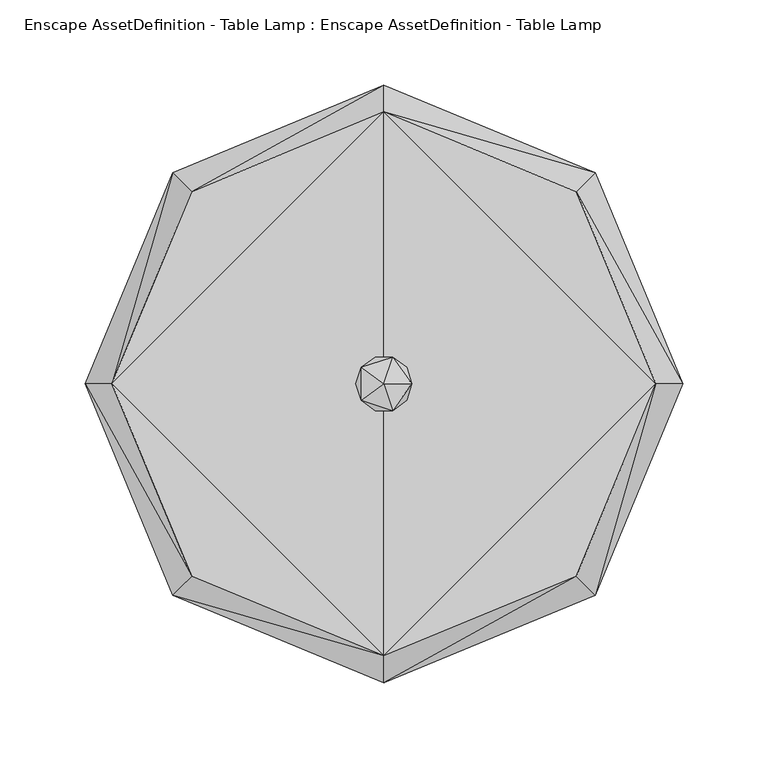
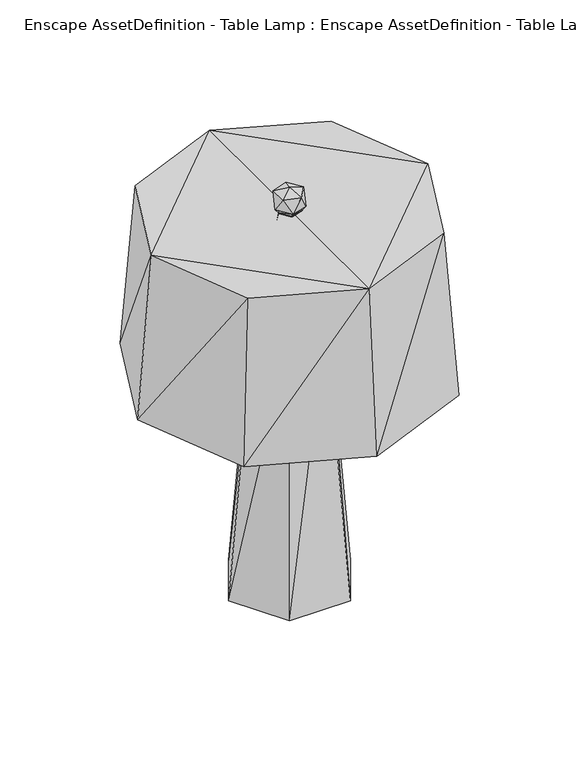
"""IFC4 building model written with IfcOpenShell, lengths in millimetres: geographic element geometry, Enscape AssetDefinition - Table Lamp : Enscape AssetDefinition - Table Lamp."""

import ifcopenshell
import ifcopenshell.guid

model = None  # the IFC model being written
_history = None  # IfcOwnerHistory: only IFC2X3 demands one
_inside = {}  # id of a spatial element -> (the spatial element, [elements in it])
_under = {}  # id of a project, library or spatial element -> (it, [spatial elements below it])
_declared = {}  # id of a project -> (the project, [libraries it declares])
_typed = {}  # id of a type object -> (the type object, [elements of that type])
_made_of = {}  # id of a material, layer set ... -> (it, [elements and type objects made of it])


def new_model(schema):
    """Start an empty IFC model of exactly this schema.

    Asked for "IFC4X3", IfcOpenShell would pick the latest addendum, in which some entities
    have other attributes; the version numbers below select the first issue.
    IFC2X3 requires an IfcOwnerHistory on every rooted entity: one is made here for all.
    """
    global model, _history
    if schema == "IFC4X3":
        model = ifcopenshell.file(schema_version=(4, 3, 0, 0))
    else:
        model = ifcopenshell.file(schema=schema)
    _inside.clear()
    _under.clear()
    _declared.clear()
    _typed.clear()
    _made_of.clear()
    _history = None
    if model.schema == "IFC2X3":
        org = make("IfcOrganization", Name="unknown")
        user = make(
            "IfcPersonAndOrganization",
            ThePerson=make("IfcPerson", FamilyName="unknown"),
            TheOrganization=org,
        )
        app = make(
            "IfcApplication",
            ApplicationDeveloper=org,
            Version="unknown",
            ApplicationFullName="unknown",
            ApplicationIdentifier="unknown",
        )
        _history = make(
            "IfcOwnerHistory",
            OwningUser=user,
            OwningApplication=app,
            ChangeAction="ADDED",
            CreationDate=0,
        )
    return model


def make(cls, **values):
    """One entity of the class cls with the attributes given. An attribute that is None is left unset."""
    return model.create_entity(
        cls, **{name: value for name, value in values.items() if value is not None}
    )


def rooted(cls, **values):
    """An entity with a GlobalId (a new one), such as an element, a storey or a relation."""
    return make(cls, GlobalId=ifcopenshell.guid.new(), OwnerHistory=_history, **values)


def si_unit(unit_type, name, prefix=None):
    """IfcSIUnit, for example si_unit("LENGTHUNIT", "METRE", prefix="MILLI")."""
    return make("IfcSIUnit", UnitType=unit_type, Prefix=prefix, Name=name)


def assignment(units):
    """IfcUnitAssignment: the units of a project."""
    return None if units is None else make("IfcUnitAssignment", Units=units)


def point(xyz):
    """IfcCartesianPoint."""
    return None if xyz is None else make("IfcCartesianPoint", Coordinates=xyz)


def direction(xyz):
    """IfcDirection."""
    return None if xyz is None else make("IfcDirection", DirectionRatios=xyz)


def frame(location, z_axis=None, x_axis=None):
    """IfcAxis2Placement3D, a coordinate frame: its origin and axes. An axis left out is left unset."""
    return make(
        "IfcAxis2Placement3D",
        Location=point(location),
        Axis=direction(z_axis),
        RefDirection=direction(x_axis),
    )


def origin():
    """The frame at (0, 0, 0) with its axes left unset."""
    return frame((0.0, 0.0, 0.0))


def place(relative_to, where):
    """IfcLocalPlacement: puts the frame where relative to a parent placement (None: the world)."""
    return make(
        "IfcLocalPlacement", PlacementRelTo=relative_to, RelativePlacement=where
    )


def context(
    kind, dimensions, precision=None, world=None, true_north=None, identifier=None
):
    """IfcGeometricRepresentationContext, for example the 3D "Model" context."""
    return make(
        "IfcGeometricRepresentationContext",
        ContextIdentifier=identifier,
        ContextType=kind,
        CoordinateSpaceDimension=dimensions,
        Precision=precision,
        WorldCoordinateSystem=world,
        TrueNorth=true_north,
    )


def project(units=None, contexts=None):
    """IfcProject with its units and contexts."""
    return rooted(
        "IfcProject",
        Name="project",
        RepresentationContexts=contexts,
        UnitsInContext=assignment(units),
    )


def spatial(cls, under=None, at=None, **own):
    """A site, building, storey or space (cls), placed at a placement, below another one or the project."""
    s = rooted(cls, ObjectPlacement=at, **own)
    if under is not None:
        _under.setdefault(under.id(), (under, []))[1].append(s)
    return s


def faces_of(points, faces, orient=None, outer=None):
    """IfcFace entities. A face is a list of loops; a loop is a list of indices into points, from 0.

    orient and outer hold one flag for each loop. By default every Orientation is true, the
    first loop of a face is its IfcFaceOuterBound and the others are IfcFaceBound.
    """
    made = []
    for i, loops in enumerate(faces):
        bounds = []
        for j, loop in enumerate(loops):
            is_outer = j == 0 if outer is None else outer[i][j]
            bounds.append(
                make(
                    "IfcFaceOuterBound" if is_outer else "IfcFaceBound",
                    Bound=make("IfcPolyLoop", Polygon=[points[k] for k in loop]),
                    Orientation=True if orient is None else orient[i][j],
                )
            )
        made.append(make("IfcFace", Bounds=bounds))
    return made


def faceted_brep(points, faces, orient=None, outer=None, voids=None):
    """IfcFacetedBrep: a solid bounded by flat faces; with voids (closed shells), ...WithVoids."""
    shared = [point(p) for p in points]
    hull = make("IfcClosedShell", CfsFaces=faces_of(shared, faces, orient, outer))
    if voids is None:
        return make("IfcFacetedBrep", Outer=hull)
    return make(
        "IfcFacetedBrepWithVoids",
        Outer=hull,
        Voids=[
            make(cls, CfsFaces=faces_of(shared, fs, o, b)) for cls, fs, o, b in voids
        ],
    )


def shape(context_of_items, identifier, shape_type, items):
    """IfcShapeRepresentation: the items that make up one representation, for example the "Body"."""
    return make(
        "IfcShapeRepresentation",
        ContextOfItems=context_of_items,
        RepresentationIdentifier=identifier,
        RepresentationType=shape_type,
        Items=items,
    )


def source(mapping_origin, context_of_items, identifier, shape_type, items):
    """IfcRepresentationMap: a shape defined once, which mapped items show again and again."""
    return make(
        "IfcRepresentationMap",
        MappingOrigin=mapping_origin,
        MappedRepresentation=shape(context_of_items, identifier, shape_type, items),
    )


def transform(
    local_origin,
    x_axis=None,
    y_axis=None,
    z_axis=None,
    scale=None,
    scale2=None,
    scale3=None,
    uniform=True,
):
    """IfcCartesianTransformationOperator3D, or its non-uniform kind. x_axis, y_axis, z_axis: its Axis1, 2, 3."""
    if uniform:
        return make(
            "IfcCartesianTransformationOperator3D",
            Axis1=direction(x_axis),
            Axis2=direction(y_axis),
            LocalOrigin=point(local_origin),
            Scale=scale,
            Axis3=direction(z_axis),
        )
    return make(
        "IfcCartesianTransformationOperator3DnonUniform",
        Axis1=direction(x_axis),
        Axis2=direction(y_axis),
        LocalOrigin=point(local_origin),
        Scale=scale,
        Axis3=direction(z_axis),
        Scale2=scale2,
        Scale3=scale3,
    )


def mapped(mapping_source, mapping_target):
    """IfcMappedItem: shows the shape of a source again, moved by a transform."""
    return make(
        "IfcMappedItem", MappingSource=mapping_source, MappingTarget=mapping_target
    )


def made_of(thing, what):
    """Note that an element or type object is made of a material, layer set ...; save() writes the relation."""
    if what is not None:
        _made_of.setdefault(what.id(), (what, []))[1].append(thing)
    return thing


def element(
    cls,
    number,
    at=None,
    inside=None,
    cuts=None,
    type_object=None,
    material=None,
    context=None,
    identifier="Body",
    shape_type=None,
    held_by="IfcProductDefinitionShape",
    body=None,
    shapes=None,
    **own,
):
    """One element of the class cls, such as IfcWall. Its Tag is "e" and its number.

    at: its placement. inside: the storey or other place that contains it. cuts: it is an
    opening in that element (IfcRelVoidsElement). A single representation is given by context,
    identifier, shape_type and body (its items); several are given by shapes. held_by: the class
    of the entity that holds the representations. save() writes the other relations.
    """
    e = rooted(cls, Tag="e%d" % number, ObjectPlacement=at, **own)
    if body is not None:
        shapes = [shape(context, identifier, shape_type, body)]
    if shapes is not None:
        e.Representation = make(held_by, Representations=shapes)
    if inside is not None:
        _inside.setdefault(inside.id(), (inside, []))[1].append(e)
    if cuts is not None:
        rooted(
            "IfcRelVoidsElement", RelatingBuildingElement=cuts, RelatedOpeningElement=e
        )
    if type_object is not None:
        _typed.setdefault(type_object.id(), (type_object, []))[1].append(e)
    return made_of(e, material)


def aggregate(whole, parts):
    """IfcRelAggregates: a whole, such as a stair, and the parts it consists of."""
    return rooted("IfcRelAggregates", RelatingObject=whole, RelatedObjects=parts)


def save(model, path):
    """Write the relations noted so far, then the file.

    IfcRelAggregates (storeys below a building ...), IfcRelContainedInSpatialStructure (elements
    in a storey), IfcRelDefinesByType, IfcRelAssociatesMaterial and IfcRelDeclares: one each for
    every whole, place, type object, material and project.
    """
    for whole, parts in _under.values():
        aggregate(whole, parts)
    for where, things in _inside.values():
        rooted(
            "IfcRelContainedInSpatialStructure",
            RelatedElements=things,
            RelatingStructure=where,
        )
    for kind, things in _typed.values():
        rooted("IfcRelDefinesByType", RelatedObjects=things, RelatingType=kind)
    for what, things in _made_of.values():
        rooted("IfcRelAssociatesMaterial", RelatedObjects=things, RelatingMaterial=what)
    for by, libraries in _declared.values():
        rooted("IfcRelDeclares", RelatingContext=by, RelatedDefinitions=libraries)
    model.write(path)


def enscape_assetdefinition_table_lamp_enscape_assetdefinition_93c3381e(model_context):
    return source(origin(), model_context, "Body", "Brep", [
        faceted_brep([(5.0825081, 15.6418644, 475.0798941), (0.0, 0.0, 480.0613225), (16.447112, 0.0, 475.0798941), (-13.305651, 9.6671209, 475.0798941), (-13.305651, -9.6671209, 475.0798941), (5.0825081, -15.6418644, 475.0798941), (13.305651, 9.6671209, 458.6327672), (13.305651, -9.6671209, 458.6327672), (-5.0825081, 15.6418644, 458.6327672), (-16.447112, 0.0, 458.6327672), (-5.0825081, -15.6418644, 458.6327672), (10.4309469, -7.5786118, 453.6099136), (-3.9839903, -12.2618098, 453.6099136), (10.4309469, 7.5786118, 453.6099136), (-3.9839903, 12.2618098, 453.6099136), (-12.8930835, 0.0, 453.6099136), (-5.0493702, -15.5407935, 439.4617379), (-16.3410716, 0.0, 439.4617379), (13.2203195, -9.6049877, 439.4617379), (13.2203195, 9.6049877, 439.4617379), (-5.0493702, 15.5407935, 439.4617379)], [[[0, 1, 2]], [[3, 1, 0]], [[4, 1, 3]], [[5, 1, 4]], [[2, 1, 5]], [[6, 2, 7]], [[2, 6, 0]], [[5, 7, 2]], [[8, 0, 6]], [[0, 8, 3]], [[9, 3, 8]], [[3, 9, 4]], [[10, 4, 9]], [[4, 10, 5]], [[7, 5, 10]], [[11, 7, 12]], [[11, 6, 7]], [[12, 7, 10]], [[13, 6, 11]], [[13, 8, 6]], [[14, 8, 13]], [[14, 9, 8]], [[15, 9, 14]], [[15, 10, 9]], [[12, 10, 15]], [[16, 12, 17]], [[17, 12, 15]], [[16, 11, 12]], [[18, 11, 16]], [[18, 13, 11]], [[19, 13, 18]], [[19, 14, 13]], [[20, 14, 19]], [[20, 15, 14]], [[17, 15, 20]], [[19, 17, 20]], [[19, 16, 17]], [[19, 18, 16]]]),
        faceted_brep([(70.484899, 0.0, 0.0), (35.242863, -61.0422902, 0.0), (-35.242863, -61.0422902, 0.0), (21.0756343, -36.504589, 324.7851133), (42.1512648, 0.0, 324.7851133), (-21.0756343, -36.504589, 324.7851133), (-35.242863, 61.0422902, 0.0), (-70.484899, 0.0, 0.0), (21.0756343, 36.504589, 324.7851133), (35.242863, 61.0422902, 0.0), (-21.0756343, 36.504589, 324.7851133), (-42.1512648, 0.0, 324.7851133)], [[[0, 1, 2]], [[3, 1, 4]], [[3, 2, 1]], [[4, 1, 0]], [[5, 2, 3]], [[6, 2, 7]], [[0, 2, 6]], [[5, 7, 2]], [[4, 0, 8]], [[0, 6, 9]], [[8, 0, 9]], [[10, 6, 11]], [[10, 9, 6]], [[11, 6, 7]], [[11, 7, 5]], [[5, 10, 11]], [[5, 3, 4]], [[5, 4, 10]], [[10, 4, 8]], [[8, 9, 10]]]),
        faceted_brep([(175.6012887, 0.0, 258.0017149), (124.1689473, -124.1689473, 258.0017149), (0.0, -175.6012887, 258.0017149), (113.0189076, -113.0189076, 453.0225396), (159.8326564, 0.0, 453.0225396), (0.0, -159.8326564, 453.0225396), (-175.6012887, 0.0, 258.0017149), (-124.1689473, -124.1689473, 258.0017149), (113.0189076, 113.0189076, 453.0225396), (0.0, 159.8326564, 453.0225396), (-113.0189076, -113.0189076, 453.0225396), (-159.8326564, 0.0, 453.0225396), (0.0, 175.6012887, 258.0017149), (-124.1689473, 124.1689473, 258.0017149), (-113.0189076, 113.0189076, 453.0225396), (124.1689473, 124.1689473, 258.0017149)], [[[0, 1, 2]], [[3, 1, 4]], [[3, 2, 1]], [[4, 1, 0]], [[5, 2, 3]], [[6, 2, 7]], [[0, 2, 6]], [[5, 7, 2]], [[5, 3, 4]], [[4, 0, 8]], [[9, 4, 8]], [[5, 4, 9]], [[10, 7, 5]], [[5, 11, 10]], [[5, 9, 11]], [[10, 6, 7]], [[11, 6, 10]], [[12, 6, 13]], [[0, 6, 12]], [[11, 13, 6]], [[14, 13, 11]], [[11, 9, 14]], [[8, 15, 9]], [[9, 12, 14]], [[9, 15, 12]], [[8, 0, 15]], [[0, 12, 15]], [[14, 12, 13]]]),
    ])


if __name__ == "__main__":
    model = new_model("IFC4")
    model_context = context("Model", 3, world=origin())
    ifc_project = project(units=[si_unit("LENGTHUNIT", "METRE", prefix="MILLI")], contexts=[model_context])
    site = spatial("IfcSite", under=ifc_project)
    building = spatial("IfcBuilding", under=site)
    placement = place(None, origin())
    enscape_assetdefinition_table_lamp_enscape_assetdefinition_shape = enscape_assetdefinition_table_lamp_enscape_assetdefinition_93c3381e(model_context)
    element("IfcGeographicElement", 1, ObjectType="Enscape AssetDefinition - Table Lamp : Enscape AssetDefinition - Table Lamp", at=placement, inside=building, context=model_context, shape_type="MappedRepresentation", body=[
        mapped(enscape_assetdefinition_table_lamp_enscape_assetdefinition_shape, transform((0.0, 0.0, 0.0), x_axis=(1.0, 0.0, 0.0), y_axis=(0.0, 1.0, 0.0), z_axis=(0.0, 0.0, 1.0))),
    ])
    save(model, "model.ifc")
